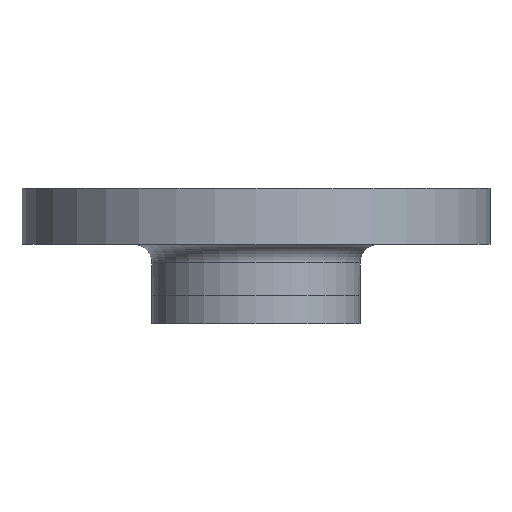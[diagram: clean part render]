
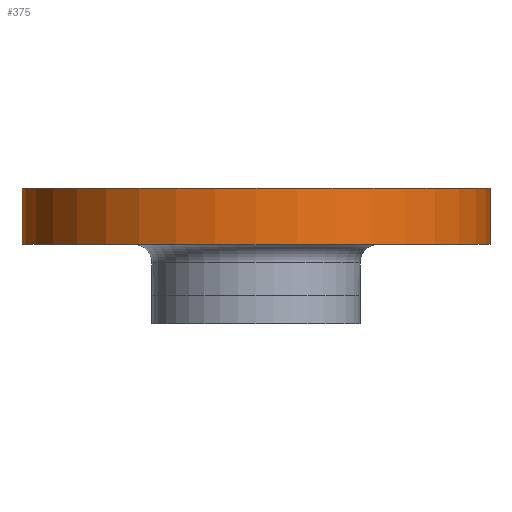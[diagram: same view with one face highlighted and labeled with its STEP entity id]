
A CAD part, front view. The second image highlights one B-rep face of the part: STEP entity #375.
In plain terms, the highlighted cylindrical face has radius 100 mm (diameter 200 mm), a partial arc.
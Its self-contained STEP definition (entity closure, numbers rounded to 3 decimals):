
#30 = ORIENTED_EDGE ( 'NONE', *, *, #267, .F. ) ;
#37 = ORIENTED_EDGE ( 'NONE', *, *, #879, .T. ) ;
#38 = DIRECTION ( 'NONE',  ( 0., 0., 1. ) ) ;
#41 = ORIENTED_EDGE ( 'NONE', *, *, #711, .F. ) ;
#119 = CARTESIAN_POINT ( 'NONE',  ( 100., 0., -24. ) ) ;
#120 = AXIS2_PLACEMENT_3D ( 'NONE', #444, #443, #442 ) ;
#127 = CARTESIAN_POINT ( 'NONE',  ( -100., 0., -24. ) ) ;
#146 = DIRECTION ( 'NONE',  ( 0., 0., 1. ) ) ;
#147 = CARTESIAN_POINT ( 'NONE',  ( 100., 0., -68. ) ) ;
#148 = LINE ( 'NONE', #147, #812 ) ;
#184 = CARTESIAN_POINT ( 'NONE',  ( -100., 0., 0. ) ) ;
#204 = CARTESIAN_POINT ( 'NONE',  ( 100., 0., 0. ) ) ;
#265 = ORIENTED_EDGE ( 'NONE', *, *, #800, .F. ) ;
#267 = EDGE_CURVE ( 'NONE', #888, #866, #515, .T. ) ;
#304 = DIRECTION ( 'NONE',  ( 1., 0., 0. ) ) ;
#305 = DIRECTION ( 'NONE',  ( 0., 0., 1. ) ) ;
#306 = CARTESIAN_POINT ( 'NONE',  ( 0., 0., 0. ) ) ;
#331 = DIRECTION ( 'NONE',  ( -1., 0., 0. ) ) ;
#333 = DIRECTION ( 'NONE',  ( 0., 0., -1. ) ) ;
#334 = CARTESIAN_POINT ( 'NONE',  ( 0., 0., -24. ) ) ;
#375 = ADVANCED_FACE ( 'NONE', ( #448 ), #445, .T. ) ;
#442 = DIRECTION ( 'NONE',  ( 1., 0., 0. ) ) ;
#443 = DIRECTION ( 'NONE',  ( 0., 0., 1. ) ) ;
#444 = CARTESIAN_POINT ( 'NONE',  ( 0., 0., -68. ) ) ;
#445 = CYLINDRICAL_SURFACE ( 'NONE', #120, 100. ) ;
#448 = FACE_OUTER_BOUND ( 'NONE', #905, .T. ) ;
#515 = LINE ( 'NONE', #524, #810 ) ;
#524 = CARTESIAN_POINT ( 'NONE',  ( -100., 0., -68. ) ) ;
#654 = CIRCLE ( 'NONE', #656, 100. ) ;
#656 = AXIS2_PLACEMENT_3D ( 'NONE', #334, #333, #331 ) ;
#698 = CIRCLE ( 'NONE', #700, 100. ) ;
#700 = AXIS2_PLACEMENT_3D ( 'NONE', #306, #305, #304 ) ;
#711 = EDGE_CURVE ( 'NONE', #892, #888, #654, .T. ) ;
#800 = EDGE_CURVE ( 'NONE', #866, #852, #698, .T. ) ;
#810 = VECTOR ( 'NONE', #38, 1000. ) ;
#812 = VECTOR ( 'NONE', #146, 1000. ) ;
#852 = VERTEX_POINT ( 'NONE', #204 ) ;
#866 = VERTEX_POINT ( 'NONE', #184 ) ;
#879 = EDGE_CURVE ( 'NONE', #892, #852, #148, .T. ) ;
#888 = VERTEX_POINT ( 'NONE', #127 ) ;
#892 = VERTEX_POINT ( 'NONE', #119 ) ;
#905 = EDGE_LOOP ( 'NONE', ( #30, #41, #37, #265 ) ) ;
